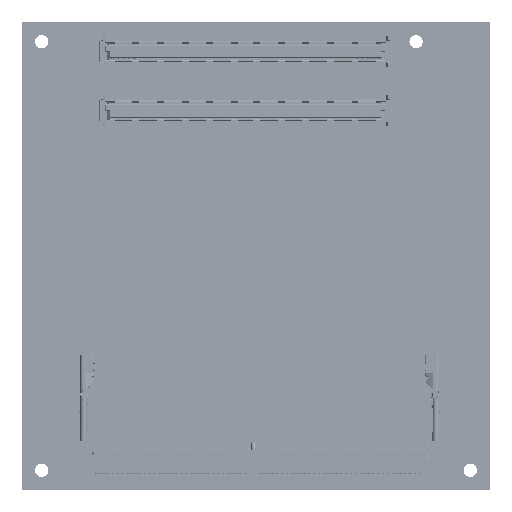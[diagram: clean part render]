
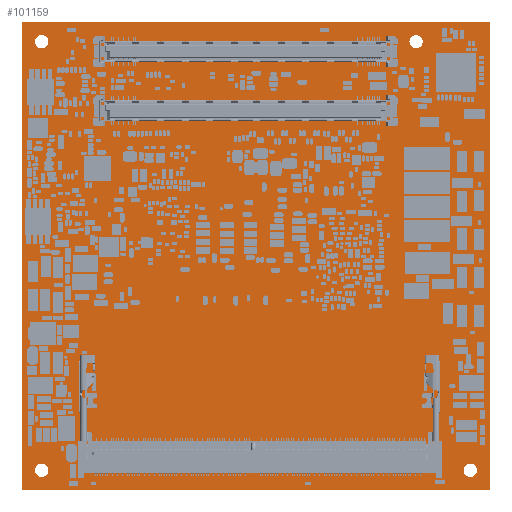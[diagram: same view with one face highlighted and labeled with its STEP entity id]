
A CAD part, front view. The second image highlights one B-rep face of the part: STEP entity #101159.
In plain terms, the highlighted planar face has unit normal (0, -1, 0).
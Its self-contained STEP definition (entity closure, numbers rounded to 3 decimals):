
#100704=DIRECTION('',(-1.,0.,0.));
#100705=VECTOR('',#100704,95.);
#100706=CARTESIAN_POINT('',(95.,0.,-95.));
#100707=LINE('',#100706,#100705);
#100711=DIRECTION('',(0.,0.,1.));
#100712=VECTOR('',#100711,95.);
#100713=CARTESIAN_POINT('',(0.,0.,-95.));
#100714=LINE('',#100713,#100712);
#100718=DIRECTION('',(1.,0.,0.));
#100719=VECTOR('',#100718,95.);
#100720=CARTESIAN_POINT('',(0.,0.,0.));
#100721=LINE('',#100720,#100719);
#100725=DIRECTION('',(0.,0.,-1.));
#100726=VECTOR('',#100725,95.);
#100727=CARTESIAN_POINT('',(95.,0.,0.));
#100728=LINE('',#100727,#100726);
#100732=CARTESIAN_POINT('',(91.,0.,-91.));
#100733=DIRECTION('',(0.,-1.,0.));
#100734=DIRECTION('',(1.,0.,0.));
#100735=AXIS2_PLACEMENT_3D('',#100732,#100733,#100734);
#100740=CARTESIAN_POINT('',(91.,0.,-91.));
#100741=DIRECTION('',(0.,-1.,0.));
#100742=DIRECTION('',(-1.,0.,0.));
#100743=AXIS2_PLACEMENT_3D('',#100740,#100741,#100742);
#100748=CARTESIAN_POINT('',(4.,0.,-91.));
#100749=DIRECTION('',(0.,-1.,0.));
#100750=DIRECTION('',(1.,0.,0.));
#100751=AXIS2_PLACEMENT_3D('',#100748,#100749,#100750);
#100756=CARTESIAN_POINT('',(4.,0.,-91.));
#100757=DIRECTION('',(0.,-1.,0.));
#100758=DIRECTION('',(-1.,0.,0.));
#100759=AXIS2_PLACEMENT_3D('',#100756,#100757,#100758);
#100764=CARTESIAN_POINT('',(4.,0.,-4.));
#100765=DIRECTION('',(0.,-1.,0.));
#100766=DIRECTION('',(1.,0.,0.));
#100767=AXIS2_PLACEMENT_3D('',#100764,#100765,#100766);
#100772=CARTESIAN_POINT('',(4.,0.,-4.));
#100773=DIRECTION('',(0.,-1.,0.));
#100774=DIRECTION('',(-1.,0.,0.));
#100775=AXIS2_PLACEMENT_3D('',#100772,#100773,#100774);
#100780=CARTESIAN_POINT('',(80.,0.,-4.));
#100781=DIRECTION('',(0.,-1.,0.));
#100782=DIRECTION('',(1.,0.,0.));
#100783=AXIS2_PLACEMENT_3D('',#100780,#100781,#100782);
#100788=CARTESIAN_POINT('',(80.,0.,-4.));
#100789=DIRECTION('',(0.,-1.,0.));
#100790=DIRECTION('',(-1.,0.,0.));
#100791=AXIS2_PLACEMENT_3D('',#100788,#100789,#100790);
#101056=CARTESIAN_POINT('',(95.,0.,-95.));
#101057=CARTESIAN_POINT('',(0.,0.,-95.));
#101058=VERTEX_POINT('',#101056);
#101059=VERTEX_POINT('',#101057);
#101060=CARTESIAN_POINT('',(0.,0.,0.));
#101061=VERTEX_POINT('',#101060);
#101062=CARTESIAN_POINT('',(95.,0.,0.));
#101063=VERTEX_POINT('',#101062);
#101064=CARTESIAN_POINT('',(92.35,0.,-91.));
#101065=CARTESIAN_POINT('',(89.65,0.,-91.));
#101066=VERTEX_POINT('',#101064);
#101067=VERTEX_POINT('',#101065);
#101068=CARTESIAN_POINT('',(5.35,0.,-91.));
#101069=CARTESIAN_POINT('',(2.65,0.,-91.));
#101070=VERTEX_POINT('',#101068);
#101071=VERTEX_POINT('',#101069);
#101072=CARTESIAN_POINT('',(5.35,0.,-4.));
#101073=CARTESIAN_POINT('',(2.65,0.,-4.));
#101074=VERTEX_POINT('',#101072);
#101075=VERTEX_POINT('',#101073);
#101076=CARTESIAN_POINT('',(81.35,0.,-4.));
#101077=CARTESIAN_POINT('',(78.65,0.,-4.));
#101078=VERTEX_POINT('',#101076);
#101079=VERTEX_POINT('',#101077);
#101120=CARTESIAN_POINT('',(0.,0.,0.));
#101121=DIRECTION('',(0.,1.,0.));
#101122=DIRECTION('',(1.,0.,0.));
#101123=AXIS2_PLACEMENT_3D('',#101120,#101121,#101122);
#101124=PLANE('',#101123);
#101126=ORIENTED_EDGE('',*,*,#101125,.T.);
#101128=ORIENTED_EDGE('',*,*,#101127,.T.);
#101130=ORIENTED_EDGE('',*,*,#101129,.T.);
#101132=ORIENTED_EDGE('',*,*,#101131,.T.);
#101133=EDGE_LOOP('',(#101126,#101128,#101130,#101132));
#101134=FACE_OUTER_BOUND('',#101133,.F.);
#101136=ORIENTED_EDGE('',*,*,#101135,.T.);
#101138=ORIENTED_EDGE('',*,*,#101137,.T.);
#101139=EDGE_LOOP('',(#101136,#101138));
#101140=FACE_BOUND('',#101139,.F.);
#101142=ORIENTED_EDGE('',*,*,#101141,.T.);
#101144=ORIENTED_EDGE('',*,*,#101143,.T.);
#101145=EDGE_LOOP('',(#101142,#101144));
#101146=FACE_BOUND('',#101145,.F.);
#101148=ORIENTED_EDGE('',*,*,#101147,.T.);
#101150=ORIENTED_EDGE('',*,*,#101149,.T.);
#101151=EDGE_LOOP('',(#101148,#101150));
#101152=FACE_BOUND('',#101151,.F.);
#101154=ORIENTED_EDGE('',*,*,#101153,.T.);
#101156=ORIENTED_EDGE('',*,*,#101155,.T.);
#101157=EDGE_LOOP('',(#101154,#101156));
#101158=FACE_BOUND('',#101157,.F.);
#100736=CIRCLE('',#100735,1.35);
#100744=CIRCLE('',#100743,1.35);
#100752=CIRCLE('',#100751,1.35);
#100760=CIRCLE('',#100759,1.35);
#100768=CIRCLE('',#100767,1.35);
#100776=CIRCLE('',#100775,1.35);
#100784=CIRCLE('',#100783,1.35);
#100792=CIRCLE('',#100791,1.35);
#101125=EDGE_CURVE('',#101058,#101059,#100707,.T.);
#101127=EDGE_CURVE('',#101059,#101061,#100714,.T.);
#101129=EDGE_CURVE('',#101061,#101063,#100721,.T.);
#101131=EDGE_CURVE('',#101063,#101058,#100728,.T.);
#101135=EDGE_CURVE('',#101066,#101067,#100736,.T.);
#101137=EDGE_CURVE('',#101067,#101066,#100744,.T.);
#101141=EDGE_CURVE('',#101070,#101071,#100752,.T.);
#101143=EDGE_CURVE('',#101071,#101070,#100760,.T.);
#101147=EDGE_CURVE('',#101074,#101075,#100768,.T.);
#101149=EDGE_CURVE('',#101075,#101074,#100776,.T.);
#101153=EDGE_CURVE('',#101078,#101079,#100784,.T.);
#101155=EDGE_CURVE('',#101079,#101078,#100792,.T.);
#101159=ADVANCED_FACE('',(#101134,#101140,#101146,#101152,#101158),#101124,.F.);
